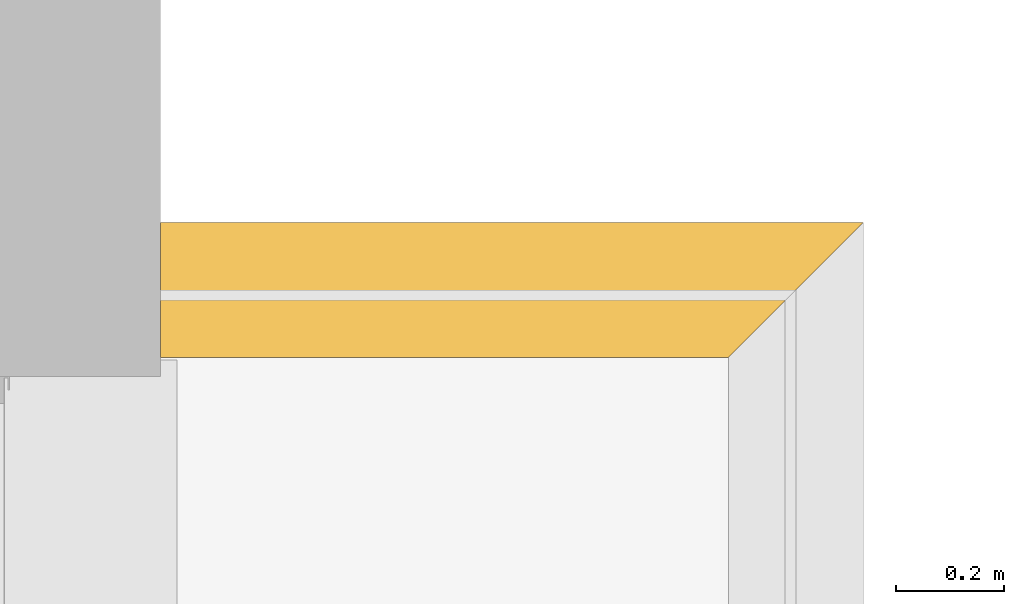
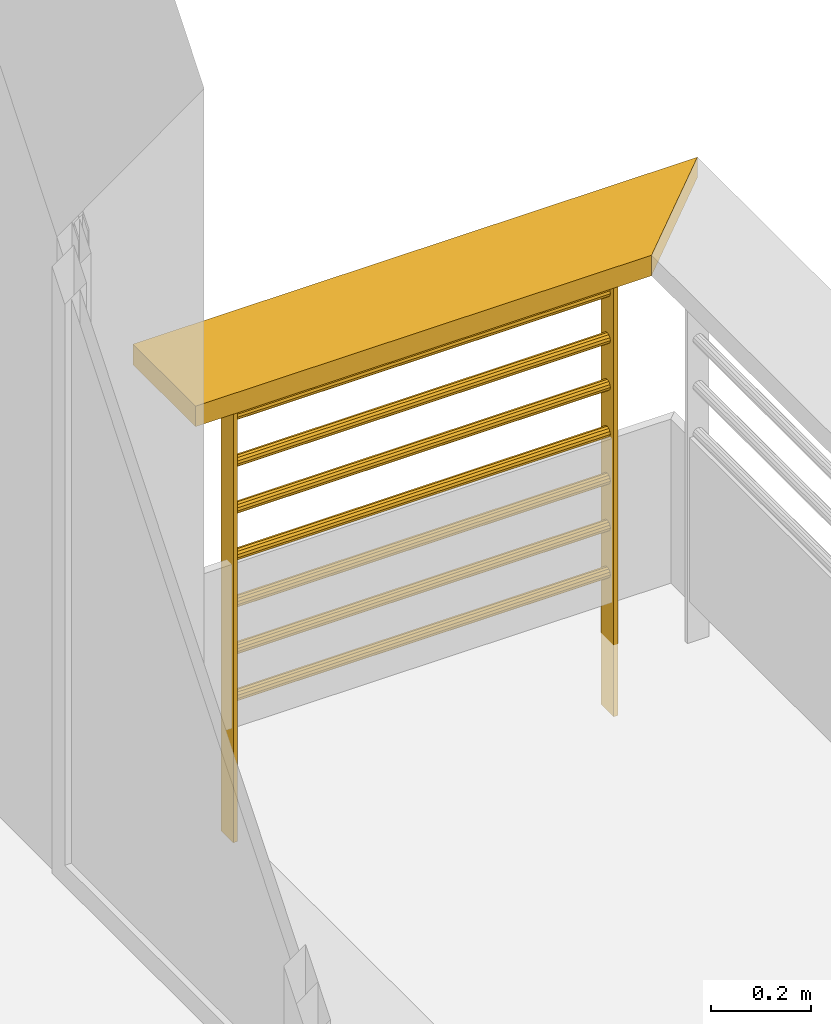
# One storey, part 104 of 164: 1 railing.
"""IFC2X3 building model written with IfcOpenShell, lengths in millimetres."""

import ifcopenshell
import ifcopenshell.guid

model = None  # the IFC model being written
_history = None  # IfcOwnerHistory: only IFC2X3 demands one
_inside = {}  # id of a spatial element -> (the spatial element, [elements in it])
_under = {}  # id of a project, library or spatial element -> (it, [spatial elements below it])
_declared = {}  # id of a project -> (the project, [libraries it declares])
_typed = {}  # id of a type object -> (the type object, [elements of that type])
_made_of = {}  # id of a material, layer set ... -> (it, [elements and type objects made of it])


def new_model(schema):
    """Start an empty IFC model of exactly this schema.

    Asked for "IFC4X3", IfcOpenShell would pick the latest addendum, in which some entities
    have other attributes; the version numbers below select the first issue.
    IFC2X3 requires an IfcOwnerHistory on every rooted entity: one is made here for all.
    """
    global model, _history
    if schema == "IFC4X3":
        model = ifcopenshell.file(schema_version=(4, 3, 0, 0))
    else:
        model = ifcopenshell.file(schema=schema)
    _inside.clear()
    _under.clear()
    _declared.clear()
    _typed.clear()
    _made_of.clear()
    _history = None
    if model.schema == "IFC2X3":
        org = make("IfcOrganization", Name="unknown")
        user = make(
            "IfcPersonAndOrganization",
            ThePerson=make("IfcPerson", FamilyName="unknown"),
            TheOrganization=org,
        )
        app = make(
            "IfcApplication",
            ApplicationDeveloper=org,
            Version="unknown",
            ApplicationFullName="unknown",
            ApplicationIdentifier="unknown",
        )
        _history = make(
            "IfcOwnerHistory",
            OwningUser=user,
            OwningApplication=app,
            ChangeAction="ADDED",
            CreationDate=0,
        )
    return model


def make(cls, **values):
    """One entity of the class cls with the attributes given. An attribute that is None is left unset."""
    return model.create_entity(
        cls, **{name: value for name, value in values.items() if value is not None}
    )


def entity(cls, *values):
    """Any entity or typed value of the class cls, its attributes in the order of the schema. None: left unset."""
    e = model.create_entity(cls)
    for i, value in enumerate(values):
        if value is not None:
            e[i] = value
    return e


def rooted(cls, **values):
    """An entity with a GlobalId (a new one), such as an element, a storey or a relation."""
    return make(cls, GlobalId=ifcopenshell.guid.new(), OwnerHistory=_history, **values)


def si_unit(unit_type, name, prefix=None):
    """IfcSIUnit, for example si_unit("LENGTHUNIT", "METRE", prefix="MILLI")."""
    return make("IfcSIUnit", UnitType=unit_type, Prefix=prefix, Name=name)


def converted_unit(unit_type, name, factor, base, dimensions=None, offset=None):
    """IfcConversionBasedUnit, such as the inch: factor (a typed value) times the base unit."""
    return make(
        "IfcConversionBasedUnit"
        if offset is None
        else "IfcConversionBasedUnitWithOffset",
        ConversionOffset=offset,
        Dimensions=None
        if dimensions is None
        else entity("IfcDimensionalExponents", *dimensions),
        UnitType=unit_type,
        Name=name,
        ConversionFactor=make(
            "IfcMeasureWithUnit", ValueComponent=factor, UnitComponent=base
        ),
    )


def derived_unit(unit_type, elements):
    """IfcDerivedUnit: a product of units, each with its exponent."""
    return make(
        "IfcDerivedUnit",
        Elements=[
            make("IfcDerivedUnitElement", Unit=unit, Exponent=power)
            for unit, power in elements
        ],
        UnitType=unit_type,
    )


def money_unit(currency):
    """IfcMonetaryUnit."""
    return make("IfcMonetaryUnit", Currency=currency)


def assignment(units):
    """IfcUnitAssignment: the units of a project."""
    return None if units is None else make("IfcUnitAssignment", Units=units)


def point(xyz):
    """IfcCartesianPoint."""
    return None if xyz is None else make("IfcCartesianPoint", Coordinates=xyz)


def direction(xyz):
    """IfcDirection."""
    return None if xyz is None else make("IfcDirection", DirectionRatios=xyz)


def frame(location, z_axis=None, x_axis=None):
    """IfcAxis2Placement3D, a coordinate frame: its origin and axes. An axis left out is left unset."""
    return make(
        "IfcAxis2Placement3D",
        Location=point(location),
        Axis=direction(z_axis),
        RefDirection=direction(x_axis),
    )


def origin_with_axes():
    """The frame at (0, 0, 0) with the z axis (0, 0, 1) and the x axis (1, 0, 0) written out."""
    return frame((0.0, 0.0, 0.0), z_axis=(0.0, 0.0, 1.0), x_axis=(1.0, 0.0, 0.0))


def place(relative_to, where):
    """IfcLocalPlacement: puts the frame where relative to a parent placement (None: the world)."""
    return make(
        "IfcLocalPlacement", PlacementRelTo=relative_to, RelativePlacement=where
    )


def context(
    kind, dimensions, precision=None, world=None, true_north=None, identifier=None
):
    """IfcGeometricRepresentationContext, for example the 3D "Model" context."""
    return make(
        "IfcGeometricRepresentationContext",
        ContextIdentifier=identifier,
        ContextType=kind,
        CoordinateSpaceDimension=dimensions,
        Precision=precision,
        WorldCoordinateSystem=world,
        TrueNorth=true_north,
    )


def subcontext(parent, identifier, kind, view, scale=None):
    """IfcGeometricRepresentationSubContext, for example "Body" below "Model"."""
    return make(
        "IfcGeometricRepresentationSubContext",
        ContextIdentifier=identifier,
        ContextType=kind,
        ParentContext=parent,
        TargetScale=scale,
        TargetView=view,
    )


def project(units=None, contexts=None):
    """IfcProject with its units and contexts."""
    return rooted(
        "IfcProject",
        Name="project",
        RepresentationContexts=contexts,
        UnitsInContext=assignment(units),
    )


def spatial(cls, under=None, at=None, **own):
    """A site, building, storey or space (cls), placed at a placement, below another one or the project."""
    s = rooted(cls, ObjectPlacement=at, **own)
    if under is not None:
        _under.setdefault(under.id(), (under, []))[1].append(s)
    return s


def faces_of(points, faces, orient=None, outer=None):
    """IfcFace entities. A face is a list of loops; a loop is a list of indices into points, from 0.

    orient and outer hold one flag for each loop. By default every Orientation is true, the
    first loop of a face is its IfcFaceOuterBound and the others are IfcFaceBound.
    """
    made = []
    for i, loops in enumerate(faces):
        bounds = []
        for j, loop in enumerate(loops):
            is_outer = j == 0 if outer is None else outer[i][j]
            bounds.append(
                make(
                    "IfcFaceOuterBound" if is_outer else "IfcFaceBound",
                    Bound=make("IfcPolyLoop", Polygon=[points[k] for k in loop]),
                    Orientation=True if orient is None else orient[i][j],
                )
            )
        made.append(make("IfcFace", Bounds=bounds))
    return made


def faceted_brep(points, faces, orient=None, outer=None, voids=None):
    """IfcFacetedBrep: a solid bounded by flat faces; with voids (closed shells), ...WithVoids."""
    shared = [point(p) for p in points]
    hull = make("IfcClosedShell", CfsFaces=faces_of(shared, faces, orient, outer))
    if voids is None:
        return make("IfcFacetedBrep", Outer=hull)
    return make(
        "IfcFacetedBrepWithVoids",
        Outer=hull,
        Voids=[
            make(cls, CfsFaces=faces_of(shared, fs, o, b)) for cls, fs, o, b in voids
        ],
    )


def shape(context_of_items, identifier, shape_type, items):
    """IfcShapeRepresentation: the items that make up one representation, for example the "Body"."""
    return make(
        "IfcShapeRepresentation",
        ContextOfItems=context_of_items,
        RepresentationIdentifier=identifier,
        RepresentationType=shape_type,
        Items=items,
    )


def made_of(thing, what):
    """Note that an element or type object is made of a material, layer set ...; save() writes the relation."""
    if what is not None:
        _made_of.setdefault(what.id(), (what, []))[1].append(thing)
    return thing


def type_object(cls, material=None, **own):
    """A type object (cls), such as IfcWallType, which elements share."""
    return made_of(rooted(cls, **own), material)


def element(
    cls,
    number,
    at=None,
    inside=None,
    cuts=None,
    type_object=None,
    material=None,
    context=None,
    identifier="Body",
    shape_type=None,
    held_by="IfcProductDefinitionShape",
    body=None,
    shapes=None,
    **own,
):
    """One element of the class cls, such as IfcWall. Its Tag is "e" and its number.

    at: its placement. inside: the storey or other place that contains it. cuts: it is an
    opening in that element (IfcRelVoidsElement). A single representation is given by context,
    identifier, shape_type and body (its items); several are given by shapes. held_by: the class
    of the entity that holds the representations. save() writes the other relations.
    """
    e = rooted(cls, Tag="e%d" % number, ObjectPlacement=at, **own)
    if body is not None:
        shapes = [shape(context, identifier, shape_type, body)]
    if shapes is not None:
        e.Representation = make(held_by, Representations=shapes)
    if inside is not None:
        _inside.setdefault(inside.id(), (inside, []))[1].append(e)
    if cuts is not None:
        rooted(
            "IfcRelVoidsElement", RelatingBuildingElement=cuts, RelatedOpeningElement=e
        )
    if type_object is not None:
        _typed.setdefault(type_object.id(), (type_object, []))[1].append(e)
    return made_of(e, material)


def aggregate(whole, parts):
    """IfcRelAggregates: a whole, such as a stair, and the parts it consists of."""
    return rooted("IfcRelAggregates", RelatingObject=whole, RelatedObjects=parts)


def save(model, path):
    """Write the relations noted so far, then the file.

    IfcRelAggregates (storeys below a building ...), IfcRelContainedInSpatialStructure (elements
    in a storey), IfcRelDefinesByType, IfcRelAssociatesMaterial and IfcRelDeclares: one each for
    every whole, place, type object, material and project.
    """
    for whole, parts in _under.values():
        aggregate(whole, parts)
    for where, things in _inside.values():
        rooted(
            "IfcRelContainedInSpatialStructure",
            RelatedElements=things,
            RelatingStructure=where,
        )
    for kind, things in _typed.values():
        rooted("IfcRelDefinesByType", RelatedObjects=things, RelatingType=kind)
    for what, things in _made_of.values():
        rooted("IfcRelAssociatesMaterial", RelatedObjects=things, RelatingMaterial=what)
    for by, libraries in _declared.values():
        rooted("IfcRelDeclares", RelatingContext=by, RelatedDefinitions=libraries)
    model.write(path)


model = new_model("IFC2X3")

# Units and contexts
model_context = context("Model", 3, precision=0.01, world=origin_with_axes(), true_north=direction((0.0, 1.0)))
body_context = subcontext(model_context, "Body", "Model", "MODEL_VIEW")
ifc_project = project(units=[si_unit("LENGTHUNIT", "METRE", prefix="MILLI"), si_unit("AREAUNIT", "SQUARE_METRE"), si_unit("VOLUMEUNIT", "CUBIC_METRE"), converted_unit("PLANEANGLEUNIT", "DEGREE", entity("IfcPlaneAngleMeasure", 0.0174532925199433), si_unit("PLANEANGLEUNIT", "RADIAN"), dimensions=[0, 0, 0, 0, 0, 0, 0]), money_unit("USD"), converted_unit("TIMEUNIT", "Year", entity("IfcTimeMeasure", 31557600.0), si_unit("TIMEUNIT", "SECOND"), dimensions=[0, 0, 1, 0, 0, 0, 0]), si_unit("MASSUNIT", "GRAM", prefix="KILO"), si_unit("THERMODYNAMICTEMPERATUREUNIT", "DEGREE_CELSIUS"), si_unit("LUMINOUSINTENSITYUNIT", "LUMEN"), si_unit("ENERGYUNIT", "JOULE", prefix="MEGA"), derived_unit("THERMALCONDUCTANCEUNIT", [(si_unit("POWERUNIT", "WATT"), 1), (si_unit("LENGTHUNIT", "METRE"), -1), (si_unit("THERMODYNAMICTEMPERATUREUNIT", "KELVIN"), -1)]), derived_unit("SPECIFICHEATCAPACITYUNIT", [(si_unit("ENERGYUNIT", "JOULE"), 1), (si_unit("MASSUNIT", "GRAM", prefix="KILO"), -1), (si_unit("THERMODYNAMICTEMPERATUREUNIT", "KELVIN"), -1)]), derived_unit("MASSDENSITYUNIT", [(si_unit("MASSUNIT", "GRAM", prefix="KILO"), 1), (si_unit("VOLUMEUNIT", "CUBIC_METRE"), -1)])], contexts=[model_context])

# Site, building, storey
site_placement = place(None, origin_with_axes())
site = spatial("IfcSite", under=ifc_project, at=site_placement, Name="Site", CompositionType="ELEMENT")
building_placement = place(site_placement, origin_with_axes())
building = spatial("IfcBuilding", under=site, at=building_placement, Name="Bâtiment", CompositionType="ELEMENT")
storey_placement = place(building_placement, frame((0.0, 0.0, 5750.0), z_axis=(0.0, 0.0, 1.0), x_axis=(1.0, 0.0, 0.0)))
storey = spatial("IfcBuildingStorey", under=building, at=storey_placement, Name="Etage1", CompositionType="ELEMENT", Elevation=5750.0)

# Railing
railing_type = type_object("IfcRailingType", Name="Cadre avec câble 01 20", PredefinedType="NOTDEFINED")
railing_placement = place(storey_placement, frame((2229653.476037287, -626665.1423823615, 0.0), z_axis=(0.0, 0.0, 1.0), x_axis=(1.0, 0.0, 0.0)))
element("IfcRailing", 1, at=railing_placement, inside=storey, type_object=railing_type, Name="Obj.-002", PredefinedType="NOTDEFINED", context=body_context, shape_type="Brep", body=[
    faceted_brep([(0.0, -125.0, 950.0), (0.0, 125.0, 950.0), (1301.913019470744, 125.0, 950.0), (1051.913019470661, -125.0, 950.0), (0.0, -125.0, 1000.0), (0.0, 125.0, 1000.0), (1301.913019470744, 125.0, 1000.0), (1051.913019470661, -125.0, 1000.0)], [[[0, 1, 2, 3]], [[1, 0, 4, 5]], [[2, 1, 5, 6]], [[7, 3, 2, 6]], [[0, 3, 7, 4]], [[5, 4, 7, 6]]]),
    faceted_brep([(145.0, -25.0, -176.0), (155.0, -25.0, -176.0), (155.0, -25.0, 950.0), (145.0, -25.0, 950.0), (145.0, 25.0, -176.0), (155.0, 25.0, -176.0), (155.0, 25.0, 950.0), (145.0, 25.0, 950.0)], [[[0, 1, 2, 3]], [[0, 4, 5, 1]], [[1, 5, 6, 2]], [[3, 2, 6, 7]], [[4, 0, 3, 7]], [[5, 4, 7, 6]]]),
    faceted_brep([(1021.913019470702, -25.0, -176.0), (1031.913019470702, -25.0, -176.0), (1031.913019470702, -25.0, 950.0), (1021.913019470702, -25.0, 950.0), (1021.913019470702, 25.0, -176.0), (1031.913019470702, 25.0, -176.0), (1031.913019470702, 25.0, 950.0), (1021.913019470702, 25.0, 950.0)], [[[0, 1, 2, 3]], [[0, 4, 5, 1]], [[1, 5, 6, 2]], [[3, 2, 6, 7]], [[4, 0, 3, 7]], [[5, 4, 7, 6]]]),
    faceted_brep([(155.0, 10.82531754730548, 156.25), (155.0, 12.5, 162.5), (1021.913019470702, 12.5, 162.5000000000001), (1021.913019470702, 10.82531754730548, 156.2500000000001), (155.0, 10.82531754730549, 168.75), (155.0, 6.249999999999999, 151.6746824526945), (155.0, 0.0, 150.0), (155.0, -6.250000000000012, 151.6746824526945), (155.0, -10.82531754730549, 156.25), (155.0, -12.5, 162.5), (155.0, -10.82531754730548, 168.75), (155.0, -6.249999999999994, 173.3253175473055), (155.0, 0.0, 175.0), (155.0, 6.250000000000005, 173.3253175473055), (1021.913019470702, 10.82531754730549, 168.7500000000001), (1021.913019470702, 6.250000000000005, 173.3253175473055), (1021.913019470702, 0.0, 175.0000000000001), (1021.913019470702, -6.249999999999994, 173.3253175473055), (1021.913019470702, -10.82531754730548, 168.7500000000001), (1021.913019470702, -12.5, 162.5000000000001), (1021.913019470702, -10.82531754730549, 156.2500000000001), (1021.913019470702, -6.250000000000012, 151.6746824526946), (1021.913019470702, 0.0, 150.0000000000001), (1021.913019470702, 6.249999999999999, 151.6746824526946)], [[[0, 1, 2, 3]], [[4, 1, 0, 5, 6, 7, 8, 9, 10, 11, 12, 13]], [[1, 4, 14, 2]], [[3, 2, 14, 15, 16, 17, 18, 19, 20, 21, 22, 23]], [[5, 0, 3, 23]], [[6, 5, 23, 22]], [[7, 6, 22, 21]], [[8, 7, 21, 20]], [[9, 8, 20, 19]], [[10, 9, 19, 18]], [[11, 10, 18, 17]], [[12, 11, 17, 16]], [[13, 12, 16, 15]], [[4, 13, 15, 14]]]),
    faceted_brep([(155.0, 10.82531754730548, 270.5357142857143), (155.0, 12.5, 276.7857142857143), (1021.913019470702, 12.5, 276.7857142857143), (1021.913019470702, 10.82531754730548, 270.5357142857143), (155.0, 10.82531754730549, 283.0357142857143), (155.0, 6.249999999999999, 265.9603967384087), (155.0, 0.0, 264.2857142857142), (155.0, -6.250000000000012, 265.9603967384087), (155.0, -10.82531754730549, 270.5357142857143), (155.0, -12.5, 276.7857142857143), (155.0, -10.82531754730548, 283.0357142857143), (155.0, -6.249999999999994, 287.6110318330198), (155.0, 0.0, 289.2857142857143), (155.0, 6.250000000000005, 287.6110318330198), (1021.913019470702, 10.82531754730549, 283.0357142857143), (1021.913019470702, 6.250000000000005, 287.6110318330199), (1021.913019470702, 0.0, 289.2857142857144), (1021.913019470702, -6.249999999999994, 287.6110318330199), (1021.913019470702, -10.82531754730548, 283.0357142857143), (1021.913019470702, -12.5, 276.7857142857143), (1021.913019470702, -10.82531754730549, 270.5357142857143), (1021.913019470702, -6.250000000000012, 265.9603967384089), (1021.913019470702, 0.0, 264.2857142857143), (1021.913019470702, 6.249999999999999, 265.9603967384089)], [[[0, 1, 2, 3]], [[4, 1, 0, 5, 6, 7, 8, 9, 10, 11, 12, 13]], [[1, 4, 14, 2]], [[3, 2, 14, 15, 16, 17, 18, 19, 20, 21, 22, 23]], [[5, 0, 3, 23]], [[6, 5, 23, 22]], [[7, 6, 22, 21]], [[8, 7, 21, 20]], [[9, 8, 20, 19]], [[10, 9, 19, 18]], [[11, 10, 18, 17]], [[12, 11, 17, 16]], [[13, 12, 16, 15]], [[4, 13, 15, 14]]]),
    faceted_brep([(155.0, 10.82531754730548, 384.8214285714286), (155.0, 12.5, 391.0714285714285), (1021.913019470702, 12.5, 391.0714285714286), (1021.913019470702, 10.82531754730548, 384.8214285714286), (155.0, 10.82531754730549, 397.3214285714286), (155.0, 6.249999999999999, 380.2461110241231), (155.0, 0.0, 378.5714285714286), (155.0, -6.250000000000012, 380.2461110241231), (155.0, -10.82531754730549, 384.8214285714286), (155.0, -12.5, 391.0714285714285), (155.0, -10.82531754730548, 397.3214285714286), (155.0, -6.249999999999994, 401.896746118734), (155.0, 0.0, 403.5714285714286), (155.0, 6.250000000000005, 401.896746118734), (1021.913019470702, 10.82531754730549, 397.3214285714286), (1021.913019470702, 6.250000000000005, 401.896746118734), (1021.913019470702, 0.0, 403.5714285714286), (1021.913019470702, -6.249999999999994, 401.896746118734), (1021.913019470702, -10.82531754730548, 397.3214285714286), (1021.913019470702, -12.5, 391.0714285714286), (1021.913019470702, -10.82531754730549, 384.8214285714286), (1021.913019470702, -6.250000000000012, 380.2461110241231), (1021.913019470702, 0.0, 378.5714285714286), (1021.913019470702, 6.249999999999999, 380.2461110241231)], [[[0, 1, 2, 3]], [[4, 1, 0, 5, 6, 7, 8, 9, 10, 11, 12, 13]], [[1, 4, 14, 2]], [[3, 2, 14, 15, 16, 17, 18, 19, 20, 21, 22, 23]], [[5, 0, 3, 23]], [[6, 5, 23, 22]], [[7, 6, 22, 21]], [[8, 7, 21, 20]], [[9, 8, 20, 19]], [[10, 9, 19, 18]], [[11, 10, 18, 17]], [[12, 11, 17, 16]], [[13, 12, 16, 15]], [[4, 13, 15, 14]]]),
    faceted_brep([(155.0, 10.82531754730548, 499.1071428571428), (155.0, 12.5, 505.3571428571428), (1021.913019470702, 12.5, 505.3571428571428), (1021.913019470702, 10.82531754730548, 499.1071428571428), (155.0, 10.82531754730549, 511.6071428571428), (155.0, 6.249999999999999, 494.5318253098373), (155.0, 0.0, 492.8571428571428), (155.0, -6.250000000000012, 494.5318253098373), (155.0, -10.82531754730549, 499.1071428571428), (155.0, -12.5, 505.3571428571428), (155.0, -10.82531754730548, 511.6071428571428), (155.0, -6.249999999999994, 516.1824604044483), (155.0, 0.0, 517.8571428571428), (155.0, 6.250000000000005, 516.1824604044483), (1021.913019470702, 10.82531754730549, 511.6071428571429), (1021.913019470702, 6.250000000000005, 516.1824604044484), (1021.913019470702, 0.0, 517.8571428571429), (1021.913019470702, -6.249999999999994, 516.1824604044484), (1021.913019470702, -10.82531754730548, 511.6071428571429), (1021.913019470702, -12.5, 505.3571428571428), (1021.913019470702, -10.82531754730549, 499.1071428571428), (1021.913019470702, -6.250000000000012, 494.5318253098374), (1021.913019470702, 0.0, 492.8571428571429), (1021.913019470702, 6.249999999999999, 494.5318253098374)], [[[0, 1, 2, 3]], [[4, 1, 0, 5, 6, 7, 8, 9, 10, 11, 12, 13]], [[1, 4, 14, 2]], [[3, 2, 14, 15, 16, 17, 18, 19, 20, 21, 22, 23]], [[5, 0, 3, 23]], [[6, 5, 23, 22]], [[7, 6, 22, 21]], [[8, 7, 21, 20]], [[9, 8, 20, 19]], [[10, 9, 19, 18]], [[11, 10, 18, 17]], [[12, 11, 17, 16]], [[13, 12, 16, 15]], [[4, 13, 15, 14]]]),
    faceted_brep([(155.0, 10.82531754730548, 613.3928571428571), (155.0, 12.5, 619.642857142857), (1021.913019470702, 12.5, 619.6428571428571), (1021.913019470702, 10.82531754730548, 613.3928571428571), (155.0, 10.82531754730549, 625.892857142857), (155.0, 6.249999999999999, 608.8175395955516), (155.0, 0.0, 607.1428571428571), (155.0, -6.250000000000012, 608.8175395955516), (155.0, -10.82531754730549, 613.3928571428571), (155.0, -12.5, 619.642857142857), (155.0, -10.82531754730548, 625.892857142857), (155.0, -6.249999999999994, 630.4681746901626), (155.0, 0.0, 632.1428571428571), (155.0, 6.250000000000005, 630.4681746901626), (1021.913019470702, 10.82531754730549, 625.8928571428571), (1021.913019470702, 6.250000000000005, 630.4681746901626), (1021.913019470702, 0.0, 632.1428571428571), (1021.913019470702, -6.249999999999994, 630.4681746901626), (1021.913019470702, -10.82531754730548, 625.8928571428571), (1021.913019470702, -12.5, 619.6428571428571), (1021.913019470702, -10.82531754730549, 613.3928571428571), (1021.913019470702, -6.250000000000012, 608.8175395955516), (1021.913019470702, 0.0, 607.1428571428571), (1021.913019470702, 6.249999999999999, 608.8175395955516)], [[[0, 1, 2, 3]], [[4, 1, 0, 5, 6, 7, 8, 9, 10, 11, 12, 13]], [[1, 4, 14, 2]], [[3, 2, 14, 15, 16, 17, 18, 19, 20, 21, 22, 23]], [[5, 0, 3, 23]], [[6, 5, 23, 22]], [[7, 6, 22, 21]], [[8, 7, 21, 20]], [[9, 8, 20, 19]], [[10, 9, 19, 18]], [[11, 10, 18, 17]], [[12, 11, 17, 16]], [[13, 12, 16, 15]], [[4, 13, 15, 14]]]),
    faceted_brep([(155.0, 10.82531754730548, 727.6785714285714), (155.0, 12.5, 733.9285714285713), (1021.913019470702, 12.5, 733.9285714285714), (1021.913019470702, 10.82531754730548, 727.6785714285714), (155.0, 10.82531754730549, 740.1785714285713), (155.0, 6.249999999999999, 723.1032538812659), (155.0, 0.0, 721.4285714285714), (155.0, -6.250000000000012, 723.1032538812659), (155.0, -10.82531754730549, 727.6785714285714), (155.0, -12.5, 733.9285714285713), (155.0, -10.82531754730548, 740.1785714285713), (155.0, -6.249999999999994, 744.7538889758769), (155.0, 0.0, 746.4285714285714), (155.0, 6.250000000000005, 744.7538889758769), (1021.913019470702, 10.82531754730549, 740.1785714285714), (1021.913019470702, 6.250000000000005, 744.7538889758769), (1021.913019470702, 0.0, 746.4285714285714), (1021.913019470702, -6.249999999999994, 744.7538889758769), (1021.913019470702, -10.82531754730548, 740.1785714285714), (1021.913019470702, -12.5, 733.9285714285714), (1021.913019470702, -10.82531754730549, 727.6785714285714), (1021.913019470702, -6.250000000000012, 723.1032538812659), (1021.913019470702, 0.0, 721.4285714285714), (1021.913019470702, 6.249999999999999, 723.1032538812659)], [[[0, 1, 2, 3]], [[4, 1, 0, 5, 6, 7, 8, 9, 10, 11, 12, 13]], [[1, 4, 14, 2]], [[3, 2, 14, 15, 16, 17, 18, 19, 20, 21, 22, 23]], [[5, 0, 3, 23]], [[6, 5, 23, 22]], [[7, 6, 22, 21]], [[8, 7, 21, 20]], [[9, 8, 20, 19]], [[10, 9, 19, 18]], [[11, 10, 18, 17]], [[12, 11, 17, 16]], [[13, 12, 16, 15]], [[4, 13, 15, 14]]]),
    faceted_brep([(155.0, 10.82531754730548, 841.9642857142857), (155.0, 12.5, 848.2142857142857), (1021.913019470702, 12.5, 848.2142857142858), (1021.913019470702, 10.82531754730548, 841.9642857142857), (155.0, 10.82531754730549, 854.4642857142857), (155.0, 6.249999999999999, 837.3889681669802), (155.0, 0.0, 835.7142857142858), (155.0, -6.250000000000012, 837.3889681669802), (155.0, -10.82531754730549, 841.9642857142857), (155.0, -12.5, 848.2142857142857), (155.0, -10.82531754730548, 854.4642857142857), (155.0, -6.249999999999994, 859.0396032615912), (155.0, 0.0, 860.7142857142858), (155.0, 6.250000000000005, 859.0396032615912), (1021.913019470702, 10.82531754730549, 854.4642857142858), (1021.913019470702, 6.250000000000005, 859.0396032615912), (1021.913019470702, 0.0, 860.7142857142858), (1021.913019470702, -6.249999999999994, 859.0396032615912), (1021.913019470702, -10.82531754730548, 854.4642857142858), (1021.913019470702, -12.5, 848.2142857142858), (1021.913019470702, -10.82531754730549, 841.9642857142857), (1021.913019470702, -6.250000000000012, 837.3889681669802), (1021.913019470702, 0.0, 835.7142857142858), (1021.913019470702, 6.249999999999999, 837.3889681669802)], [[[0, 1, 2, 3]], [[4, 1, 0, 5, 6, 7, 8, 9, 10, 11, 12, 13]], [[1, 4, 14, 2]], [[3, 2, 14, 15, 16, 17, 18, 19, 20, 21, 22, 23]], [[5, 0, 3, 23]], [[6, 5, 23, 22]], [[7, 6, 22, 21]], [[8, 7, 21, 20]], [[9, 8, 20, 19]], [[10, 9, 19, 18]], [[11, 10, 18, 17]], [[12, 11, 17, 16]], [[13, 12, 16, 15]], [[4, 13, 15, 14]]]),
])

save(model, "model.ifc")
